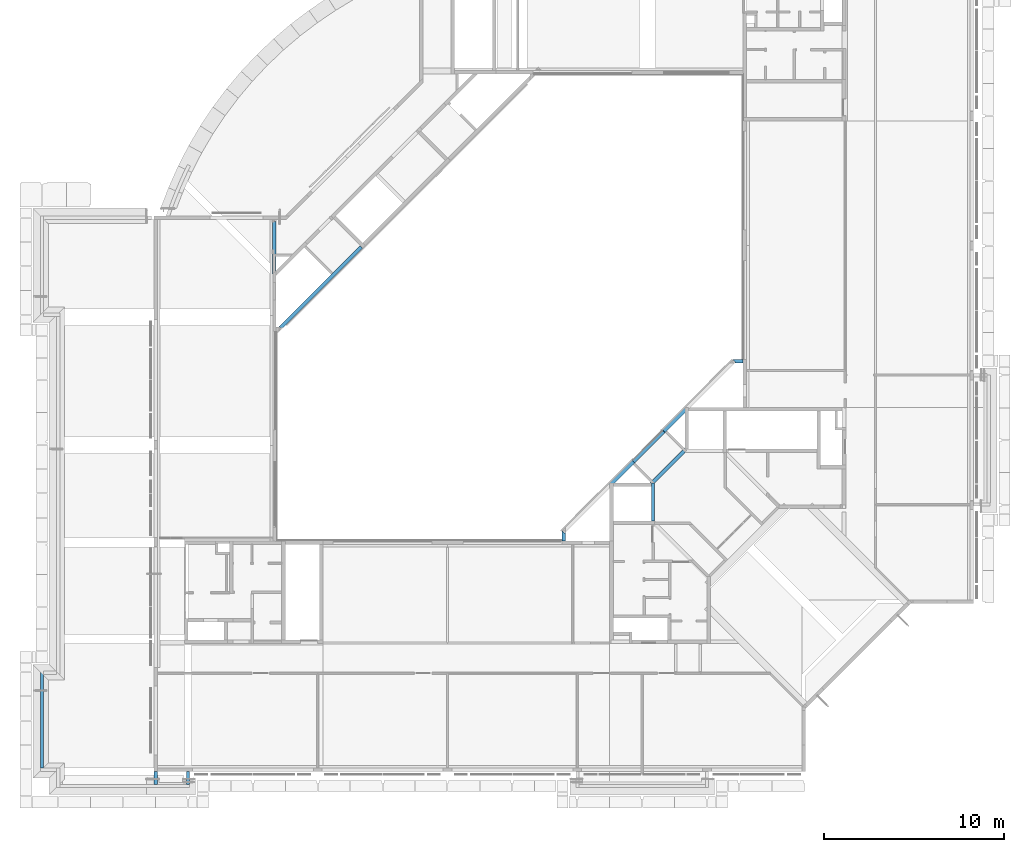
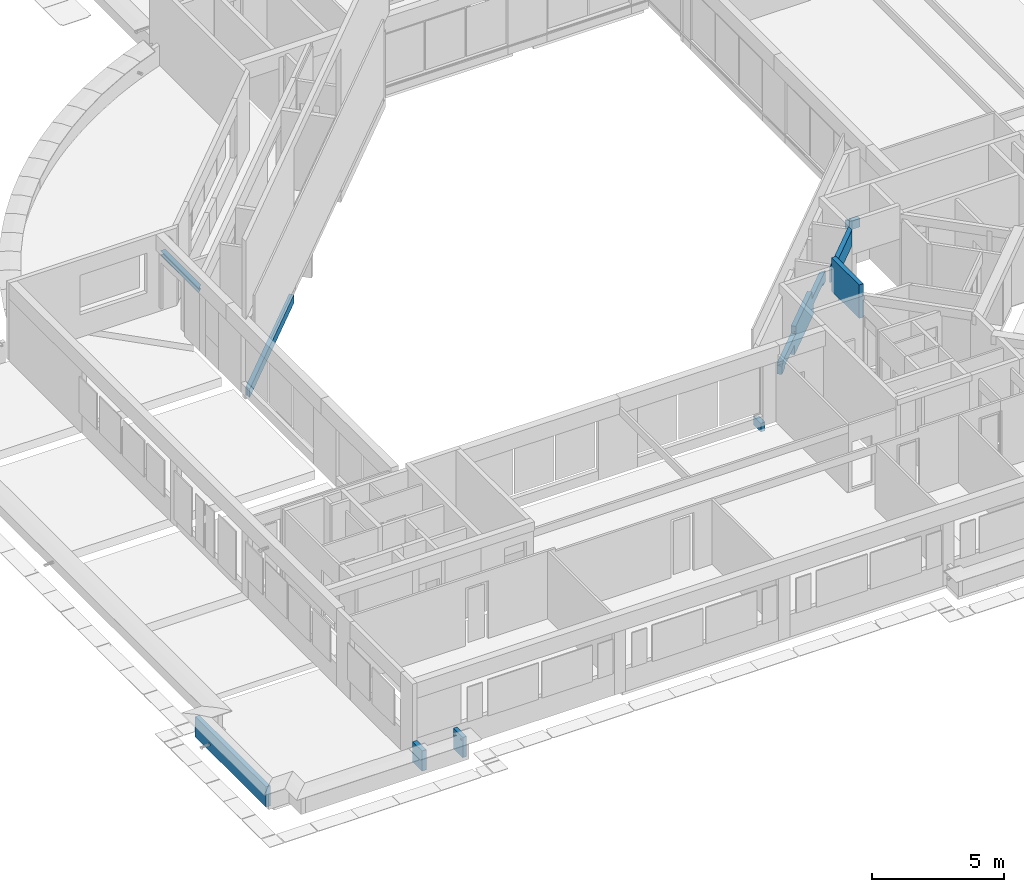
# One storey, part 19 of 38: 7 beams, 3 walls.
"""IFC4X3_ADD2 building model written with IfcOpenShell, lengths in millimetres."""

import ifcopenshell
import ifcopenshell.guid

model = None  # the IFC model being written
_history = None  # IfcOwnerHistory: only IFC2X3 demands one
_inside = {}  # id of a spatial element -> (the spatial element, [elements in it])
_under = {}  # id of a project, library or spatial element -> (it, [spatial elements below it])
_declared = {}  # id of a project -> (the project, [libraries it declares])
_typed = {}  # id of a type object -> (the type object, [elements of that type])
_made_of = {}  # id of a material, layer set ... -> (it, [elements and type objects made of it])


def new_model(schema):
    """Start an empty IFC model of exactly this schema.

    Asked for "IFC4X3", IfcOpenShell would pick the latest addendum, in which some entities
    have other attributes; the version numbers below select the first issue.
    IFC2X3 requires an IfcOwnerHistory on every rooted entity: one is made here for all.
    """
    global model, _history
    if schema == "IFC4X3":
        model = ifcopenshell.file(schema_version=(4, 3, 0, 0))
    else:
        model = ifcopenshell.file(schema=schema)
    _inside.clear()
    _under.clear()
    _declared.clear()
    _typed.clear()
    _made_of.clear()
    _history = None
    if model.schema == "IFC2X3":
        org = make("IfcOrganization", Name="unknown")
        user = make(
            "IfcPersonAndOrganization",
            ThePerson=make("IfcPerson", FamilyName="unknown"),
            TheOrganization=org,
        )
        app = make(
            "IfcApplication",
            ApplicationDeveloper=org,
            Version="unknown",
            ApplicationFullName="unknown",
            ApplicationIdentifier="unknown",
        )
        _history = make(
            "IfcOwnerHistory",
            OwningUser=user,
            OwningApplication=app,
            ChangeAction="ADDED",
            CreationDate=0,
        )
    return model


def make(cls, **values):
    """One entity of the class cls with the attributes given. An attribute that is None is left unset."""
    return model.create_entity(
        cls, **{name: value for name, value in values.items() if value is not None}
    )


def rooted(cls, **values):
    """An entity with a GlobalId (a new one), such as an element, a storey or a relation."""
    return make(cls, GlobalId=ifcopenshell.guid.new(), OwnerHistory=_history, **values)


def si_unit(unit_type, name, prefix=None):
    """IfcSIUnit, for example si_unit("LENGTHUNIT", "METRE", prefix="MILLI")."""
    return make("IfcSIUnit", UnitType=unit_type, Prefix=prefix, Name=name)


def assignment(units):
    """IfcUnitAssignment: the units of a project."""
    return None if units is None else make("IfcUnitAssignment", Units=units)


def point(xyz):
    """IfcCartesianPoint."""
    return None if xyz is None else make("IfcCartesianPoint", Coordinates=xyz)


def direction(xyz):
    """IfcDirection."""
    return None if xyz is None else make("IfcDirection", DirectionRatios=xyz)


def frame(location, z_axis=None, x_axis=None):
    """IfcAxis2Placement3D, a coordinate frame: its origin and axes. An axis left out is left unset."""
    return make(
        "IfcAxis2Placement3D",
        Location=point(location),
        Axis=direction(z_axis),
        RefDirection=direction(x_axis),
    )


def origin_with_axes():
    """The frame at (0, 0, 0) with the z axis (0, 0, 1) and the x axis (1, 0, 0) written out."""
    return frame((0.0, 0.0, 0.0), z_axis=(0.0, 0.0, 1.0), x_axis=(1.0, 0.0, 0.0))


def place(relative_to, where):
    """IfcLocalPlacement: puts the frame where relative to a parent placement (None: the world)."""
    return make(
        "IfcLocalPlacement", PlacementRelTo=relative_to, RelativePlacement=where
    )


def context(
    kind, dimensions, precision=None, world=None, true_north=None, identifier=None
):
    """IfcGeometricRepresentationContext, for example the 3D "Model" context."""
    return make(
        "IfcGeometricRepresentationContext",
        ContextIdentifier=identifier,
        ContextType=kind,
        CoordinateSpaceDimension=dimensions,
        Precision=precision,
        WorldCoordinateSystem=world,
        TrueNorth=true_north,
    )


def subcontext(parent, identifier, kind, view, scale=None):
    """IfcGeometricRepresentationSubContext, for example "Body" below "Model"."""
    return make(
        "IfcGeometricRepresentationSubContext",
        ContextIdentifier=identifier,
        ContextType=kind,
        ParentContext=parent,
        TargetScale=scale,
        TargetView=view,
    )


def project(units=None, contexts=None):
    """IfcProject with its units and contexts."""
    return rooted(
        "IfcProject",
        Name="project",
        RepresentationContexts=contexts,
        UnitsInContext=assignment(units),
    )


def spatial(cls, under=None, at=None, **own):
    """A site, building, storey or space (cls), placed at a placement, below another one or the project."""
    s = rooted(cls, ObjectPlacement=at, **own)
    if under is not None:
        _under.setdefault(under.id(), (under, []))[1].append(s)
    return s


def point_list(points):
    """IfcCartesianPointList2D or 3D."""
    cls = (
        "IfcCartesianPointList2D" if len(points[0]) == 2 else "IfcCartesianPointList3D"
    )
    return make(cls, CoordList=points)


def polygons(points, faces, closed=None, point_numbers=None):
    """IfcPolygonalFaceSet: a face is its outer loop, then its inner loops; points numbered from 1."""
    made = []
    for loops in faces:
        if len(loops) == 1:
            made.append(make("IfcIndexedPolygonalFace", CoordIndex=loops[0]))
        else:
            made.append(
                make(
                    "IfcIndexedPolygonalFaceWithVoids",
                    CoordIndex=loops[0],
                    InnerCoordIndices=loops[1:],
                )
            )
    return make(
        "IfcPolygonalFaceSet",
        Coordinates=point_list(points),
        Closed=closed,
        Faces=made,
        PnIndex=point_numbers,
    )


def shape(context_of_items, identifier, shape_type, items):
    """IfcShapeRepresentation: the items that make up one representation, for example the "Body"."""
    return make(
        "IfcShapeRepresentation",
        ContextOfItems=context_of_items,
        RepresentationIdentifier=identifier,
        RepresentationType=shape_type,
        Items=items,
    )


def source(mapping_origin, context_of_items, identifier, shape_type, items):
    """IfcRepresentationMap: a shape defined once, which mapped items show again and again."""
    return make(
        "IfcRepresentationMap",
        MappingOrigin=mapping_origin,
        MappedRepresentation=shape(context_of_items, identifier, shape_type, items),
    )


def transform(
    local_origin,
    x_axis=None,
    y_axis=None,
    z_axis=None,
    scale=None,
    scale2=None,
    scale3=None,
    uniform=True,
):
    """IfcCartesianTransformationOperator3D, or its non-uniform kind. x_axis, y_axis, z_axis: its Axis1, 2, 3."""
    if uniform:
        return make(
            "IfcCartesianTransformationOperator3D",
            Axis1=direction(x_axis),
            Axis2=direction(y_axis),
            LocalOrigin=point(local_origin),
            Scale=scale,
            Axis3=direction(z_axis),
        )
    return make(
        "IfcCartesianTransformationOperator3DnonUniform",
        Axis1=direction(x_axis),
        Axis2=direction(y_axis),
        LocalOrigin=point(local_origin),
        Scale=scale,
        Axis3=direction(z_axis),
        Scale2=scale2,
        Scale3=scale3,
    )


def mapped(mapping_source, mapping_target):
    """IfcMappedItem: shows the shape of a source again, moved by a transform."""
    return make(
        "IfcMappedItem", MappingSource=mapping_source, MappingTarget=mapping_target
    )


def material(Name=None, Category=None):
    """IfcMaterial."""
    return make("IfcMaterial", Name=Name, Category=Category)


def made_of(thing, what):
    """Note that an element or type object is made of a material, layer set ...; save() writes the relation."""
    if what is not None:
        _made_of.setdefault(what.id(), (what, []))[1].append(thing)
    return thing


def type_object(cls, material=None, **own):
    """A type object (cls), such as IfcWallType, which elements share."""
    return made_of(rooted(cls, **own), material)


def type_shapes(of_type, sources):
    """Give a type object the sources (RepresentationMaps) that its elements show as mapped items."""
    of_type.RepresentationMaps = sources


def element(
    cls,
    number,
    at=None,
    inside=None,
    cuts=None,
    type_object=None,
    material=None,
    context=None,
    identifier="Body",
    shape_type=None,
    held_by="IfcProductDefinitionShape",
    body=None,
    shapes=None,
    **own,
):
    """One element of the class cls, such as IfcWall. Its Tag is "e" and its number.

    at: its placement. inside: the storey or other place that contains it. cuts: it is an
    opening in that element (IfcRelVoidsElement). A single representation is given by context,
    identifier, shape_type and body (its items); several are given by shapes. held_by: the class
    of the entity that holds the representations. save() writes the other relations.
    """
    e = rooted(cls, Tag="e%d" % number, ObjectPlacement=at, **own)
    if body is not None:
        shapes = [shape(context, identifier, shape_type, body)]
    if shapes is not None:
        e.Representation = make(held_by, Representations=shapes)
    if inside is not None:
        _inside.setdefault(inside.id(), (inside, []))[1].append(e)
    if cuts is not None:
        rooted(
            "IfcRelVoidsElement", RelatingBuildingElement=cuts, RelatedOpeningElement=e
        )
    if type_object is not None:
        _typed.setdefault(type_object.id(), (type_object, []))[1].append(e)
    return made_of(e, material)


def aggregate(whole, parts):
    """IfcRelAggregates: a whole, such as a stair, and the parts it consists of."""
    return rooted("IfcRelAggregates", RelatingObject=whole, RelatedObjects=parts)


def save(model, path):
    """Write the relations noted so far, then the file.

    IfcRelAggregates (storeys below a building ...), IfcRelContainedInSpatialStructure (elements
    in a storey), IfcRelDefinesByType, IfcRelAssociatesMaterial and IfcRelDeclares: one each for
    every whole, place, type object, material and project.
    """
    for whole, parts in _under.values():
        aggregate(whole, parts)
    for where, things in _inside.values():
        rooted(
            "IfcRelContainedInSpatialStructure",
            RelatedElements=things,
            RelatingStructure=where,
        )
    for kind, things in _typed.values():
        rooted("IfcRelDefinesByType", RelatedObjects=things, RelatingType=kind)
    for what, things in _made_of.values():
        rooted("IfcRelAssociatesMaterial", RelatedObjects=things, RelatingMaterial=what)
    for by, libraries in _declared.values():
        rooted("IfcRelDeclares", RelatingContext=by, RelatedDefinitions=libraries)
    model.write(path)


model = new_model("IFC4X3_ADD2")

# Units and contexts
model_context = context("Model", 3, precision=1e-05, world=origin_with_axes(), true_north=direction((0.0, 1.0)))
body_context = subcontext(model_context, "Body", "Model", "MODEL_VIEW")
ifc_project = project(units=[si_unit("LENGTHUNIT", "METRE", prefix="MILLI"), si_unit("AREAUNIT", "SQUARE_METRE"), si_unit("VOLUMEUNIT", "CUBIC_METRE"), si_unit("PLANEANGLEUNIT", "RADIAN"), si_unit("TIMEUNIT", "SECOND"), si_unit("MASSUNIT", "GRAM")], contexts=[model_context])

# Site, building, storey
site_placement = place(None, origin_with_axes())
site = spatial("IfcSite", under=ifc_project, at=site_placement, Name="Site", CompositionType="ELEMENT")
building_placement = place(site_placement, origin_with_axes())
building = spatial("IfcBuilding", under=site, at=building_placement, Name="IFC Building Story")
storey_placement = place(building_placement, frame((0.0, 0.0, 10800.0), z_axis=(0.0, 0.0, 1.0), x_axis=(1.0, 0.0, 0.0)))
storey = spatial("IfcBuildingStorey", under=building, at=storey_placement, Name="030", Elevation=10800.0)

# Beams
ifc_material_1 = material(Name="BB_Beton_Bestaand")
beam_type_1 = type_object("IfcBeamType", Name="BB_XX_Betonbalk_ rechthoekig_ center-center_SFB_190 x 740 mm", PredefinedType="NOTDEFINED")
shared_shape_1 = source(origin_with_axes(), body_context, "Body", "Tessellation", [
    polygons([(1953.70057685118, 1685.00000000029, 0.0), (1953.70057685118, 1685.00000000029, 740.000000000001), (268.700576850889, 2.16573425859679e-12, 740.000000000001), (268.700576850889, 2.16573425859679e-12, 0.0), (1953.70057685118, 1953.70057685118, 0.0), (256.990491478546, 2.16573425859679e-12, 0.0), (59.0005927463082, 4.33146851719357e-12, 0.0), (-2.16573425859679e-12, 2.16573425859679e-12, 0.0), (29.5002963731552, 29.5002963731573, 0.0), (128.495245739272, 128.495245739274, 0.0), (1825.17595242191, 1825.17595242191, 0.0), (1924.17090178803, 1924.17090178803, 0.0), (1953.70057685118, 1953.70057685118, 740.000000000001), (-2.16573425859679e-12, 2.16573425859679e-12, 740.000000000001), (29.500296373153, 29.5002963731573, 740.000000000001), (128.495245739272, 128.495245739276, 740.000000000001), (1825.17595242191, 1825.17595242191, 740.000000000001), (1924.17090178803, 1924.17090178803, 740.000000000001), (1953.70057685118, 1875.00000000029, 740.000000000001), (78.7005768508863, 4.33146851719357e-12, 740.000000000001)], [[[1, 2, 3, 4]], [[7, 8, 9]], [[9, 10, 6]], [[9, 6, 7]], [[12, 5, 1]], [[1, 11, 12]], [[1, 4, 6]], [[1, 6, 10]], [[1, 10, 11]], [[9, 8, 14]], [[9, 14, 15]], [[15, 16, 10]], [[15, 10, 9]], [[16, 17, 11]], [[16, 11, 10]], [[17, 18, 12]], [[17, 12, 11]], [[18, 13, 5]], [[18, 5, 12]], [[19, 13, 18]], [[15, 14, 20]], [[20, 16, 15]], [[20, 3, 2]], [[20, 2, 19]], [[20, 19, 17]], [[20, 17, 16]], [[19, 18, 17]], [[19, 2, 1]], [[19, 1, 5]], [[5, 13, 19]], [[20, 14, 8]], [[20, 8, 7]], [[6, 4, 3]], [[3, 20, 7]], [[3, 7, 6]]]),
])
type_shapes(beam_type_1, [shared_shape_1])
beam_1_placement = place(storey_placement, frame((-17868.7005768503, 15915.0, 2660.0), z_axis=(0.0, 0.0, 1.0), x_axis=(1.0, 0.0, 0.0)))
element("IfcBeam", 1, at=beam_1_placement, inside=storey, type_object=beam_type_1, material=ifc_material_1, Name="BB_XX_Betonbalk, rechthoekig, center-center_SFB:190 x 740 mm", ObjectType="BB_XX_Betonbalk, rechthoekig, center-center_SFB:190 x 740 mm", PredefinedType="BEAM", context=body_context, shape_type="MappedRepresentation", body=[
    mapped(shared_shape_1, transform((0.0, 0.0, 0.0))),
])
beam_type_2 = type_object("IfcBeamType", Name="BB_XX_Betonbalk_ rechthoekig_ center-center_SFB_190 x 1550 mm3", PredefinedType="NOTDEFINED")
shared_shape_2 = source(origin_with_axes(), body_context, "Body", "Tessellation", [
    polygons([(1.40772726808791e-10, 2.16573425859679e-12, 1550.0), (1.40772726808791e-10, 2.16573425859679e-12, 0.0), (190.000000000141, 1.51601398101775e-11, 0.0), (190.000000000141, 1.51601398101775e-11, 1550.0), (0.0, 2100.0, 1550.0), (190.000000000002, 2100.00000000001, 1550.0), (190.000000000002, 2100.00000000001, 0.0), (0.0, 2100.0, 0.0), (0.0, 2100.0, 429.999999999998), (183.315657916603, 2100.00000000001, 429.999999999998), (183.315657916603, 2100.00000000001, 1150.0), (0.0, 2100.0, 1150.0), (0.0, 2085.74301998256, 1150.0), (0.0, 2085.74301998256, 429.999999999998), (1.29944055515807e-11, 1900.00000000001, 0.0), (190.000000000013, 1900.00000000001, 0.0), (84.5702091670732, 2001.21051160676, 1150.0), (84.5702091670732, 2001.21051160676, 429.999999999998)], [[[1, 2, 3, 4]], [[11, 12, 5]], [[11, 5, 6]], [[6, 10, 11]], [[6, 7, 10]], [[7, 8, 9]], [[7, 9, 10]], [[14, 9, 8]], [[15, 2, 1]], [[15, 1, 13]], [[14, 8, 15]], [[15, 13, 14]], [[1, 5, 13]], [[5, 12, 13]], [[15, 8, 7]], [[15, 7, 16]], [[16, 3, 2]], [[16, 2, 15]], [[16, 7, 6]], [[6, 4, 3]], [[6, 3, 16]], [[1, 4, 6, 5]], [[17, 18, 14, 13]], [[18, 17, 11, 10]], [[14, 18, 10, 9]], [[17, 13, 12, 11]]]),
])
type_shapes(beam_type_2, [shared_shape_2])
beam_2_placement = place(storey_placement, frame((-17790.0, 13815.0, 2250.0), z_axis=(0.0, 0.0, 1.0), x_axis=(1.0, 0.0, 0.0)))
element("IfcBeam", 2, at=beam_2_placement, inside=storey, type_object=beam_type_2, material=ifc_material_1, Name="BB_XX_Betonbalk, rechthoekig, center-center_SFB:190 x 1550 mm", ObjectType="BB_XX_Betonbalk, rechthoekig, center-center_SFB:190 x 1550 mm", PredefinedType="BEAM", context=body_context, shape_type="MappedRepresentation", body=[
    mapped(shared_shape_2, transform((0.0, 0.0, 0.0))),
])
ifc_material_2 = material(Name="Metal - Steel - 345 MPa")
beam_type_3 = type_object("IfcBeamType", Name="VHG_28_HEA Beams_HE200A", PredefinedType="NOTDEFINED")
shared_shape_3 = source(origin_with_axes(), body_context, "Body", "Tessellation", [
    polygons([(200.000000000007, 2912.94985260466, 10.0000000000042), (200.000000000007, 2912.94985260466, 2.16573425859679e-12), (4.33146851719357e-12, 2912.94985260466, 2.16573425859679e-12), (4.33146851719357e-12, 2912.94985260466, 10.0000000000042), (96.7500000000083, 2912.94985260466, 10.0000000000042), (96.7500000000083, 2912.94985260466, 180.000000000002), (4.33146851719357e-12, 2912.94985260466, 180.000000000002), (4.33146851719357e-12, 2912.94985260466, 190.0), (200.000000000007, 2912.94985260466, 190.0), (200.000000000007, 2912.94985260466, 180.000000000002), (103.250000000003, 2912.94985260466, 180.000000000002), (103.250000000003, 2912.94985260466, 10.0000000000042), (200.000000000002, 200.000000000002, 10.0000000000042), (200.000000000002, 200.000000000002, 2.16573425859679e-12), (0.0, 0.0, 2.16573425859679e-12), (0.0, 0.0, 10.0000000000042), (96.750000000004, 96.750000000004, 10.0000000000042), (96.750000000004, 96.750000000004, 180.000000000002), (96.750000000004, 185.740423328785, 28.1570799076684), (96.750000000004, 265.740423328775, 28.1570799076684), (96.750000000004, 265.740423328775, 168.157079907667), (96.750000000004, 185.740423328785, 168.157079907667), (0.0, 0.0, 180.000000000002), (0.0, 0.0, 190.0), (200.000000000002, 200.000000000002, 190.0), (200.000000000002, 200.000000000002, 180.000000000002), (103.250000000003, 103.250000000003, 180.000000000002), (103.250000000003, 103.250000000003, 10.0000000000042), (103.250000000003, 265.740423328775, 28.1570799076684), (103.250000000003, 185.740423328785, 28.1570799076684), (103.250000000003, 185.740423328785, 168.157079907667), (103.250000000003, 265.740423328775, 168.157079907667)], [[[6, 7, 8]], [[12, 1, 2]], [[2, 5, 12]], [[6, 8, 11]], [[11, 12, 5]], [[11, 5, 6]], [[8, 9, 11]], [[9, 10, 11]], [[2, 3, 5]], [[3, 4, 5]], [[2, 1, 13, 14]], [[3, 2, 14, 15]], [[4, 3, 15, 16]], [[5, 4, 16, 17]], [[22, 19, 17]], [[22, 17, 18]], [[18, 21, 22]], [[21, 18, 6]], [[6, 5, 20]], [[6, 20, 21]], [[5, 17, 20]], [[17, 19, 20]], [[7, 6, 18, 23]], [[8, 7, 23, 24]], [[9, 8, 24, 25]], [[10, 9, 25, 26]], [[11, 10, 26, 27]], [[29, 28, 12]], [[12, 11, 32]], [[12, 32, 29]], [[11, 27, 32]], [[27, 31, 32]], [[27, 28, 30]], [[27, 30, 31]], [[28, 29, 30]], [[1, 12, 28, 13]], [[29, 20, 19, 30]], [[30, 19, 22, 31]], [[31, 22, 21, 32]], [[20, 29, 32, 21]], [[27, 26, 25]], [[17, 16, 15]], [[15, 28, 17]], [[27, 25, 18]], [[18, 17, 28]], [[18, 28, 27]], [[25, 24, 18]], [[24, 23, 18]], [[15, 14, 28]], [[14, 13, 28]]]),
])
type_shapes(beam_type_3, [shared_shape_3])
beam_3_placement = place(storey_placement, frame((-38805.0, 27512.0501473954, 2490.0), z_axis=(0.0, 0.0, 1.0), x_axis=(1.0, 0.0, 0.0)))
element("IfcBeam", 3, at=beam_3_placement, inside=storey, type_object=beam_type_3, material=ifc_material_2, Name="VHG_28_HEA Beams:HE200A", ObjectType="VHG_28_HEA Beams:HE200A", PredefinedType="BEAM", context=body_context, shape_type="MappedRepresentation", body=[
    mapped(shared_shape_3, transform((0.0, 0.0, 0.0))),
])
beam_type_4 = type_object("IfcBeamType", Name="BB_XX_Betonbalk_ rechthoekig_ center-center_SFB_190 x 400 mm29", PredefinedType="NOTDEFINED")
shared_shape_4 = source(origin_with_axes(), body_context, "Body", "Tessellation", [
    polygons([(4657.8504130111, 4588.90460665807, 400.000000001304), (4657.85041301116, 4588.90460665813, 1.30377202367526e-09), (4523.50012458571, 4723.25489508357, 1.30377202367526e-09), (4523.50012458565, 4723.25489508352, 400.000000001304), (68.9458063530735, 5.63090907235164e-11, 2.16573425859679e-12), (68.9458063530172, 0.0, 400.000000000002), (68.1480087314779, 0.797797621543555, 400.000000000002), (68.1480087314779, 0.797797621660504, 2.16573425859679e-12), (68.1480087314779, 199.754770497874, 2.38230768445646e-11), (0.0, 199.754770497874, 1.94916083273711e-11), (0.0, 199.754770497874, 400.000000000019), (68.1480087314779, 199.754770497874, 400.000000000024)], [[[1, 2, 3, 4]], [[5, 6, 7, 8]], [[2, 1, 6, 5]], [[9, 10, 3]], [[3, 2, 5]], [[3, 5, 8]], [[3, 8, 9]], [[4, 3, 10, 11]], [[12, 7, 6]], [[12, 6, 1]], [[12, 1, 4]], [[4, 11, 12]], [[12, 9, 8, 7]], [[9, 12, 11, 10]]]),
])
type_shapes(beam_type_4, [shared_shape_4])
beam_4_placement = place(storey_placement, frame((-38473.965971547, 24355.2452295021, -600.0), z_axis=(0.0, 0.0, 1.0), x_axis=(1.0, 0.0, 0.0)))
element("IfcBeam", 4, at=beam_4_placement, inside=storey, type_object=beam_type_4, material=ifc_material_1, Name="BB_XX_Betonbalk, rechthoekig, center-center_SFB:190 x 400 mm", ObjectType="BB_XX_Betonbalk, rechthoekig, center-center_SFB:190 x 400 mm", PredefinedType="BEAM", context=body_context, shape_type="MappedRepresentation", body=[
    mapped(shared_shape_4, transform((0.0, 0.0, 0.0))),
])
beam_type_5 = type_object("IfcBeamType", Name="BB_XX_Betonbalk_ rechthoekig_ center-center_SFB_190 x 400 mm31", PredefinedType="NOTDEFINED")
shared_shape_5 = source(origin_with_axes(), body_context, "Body", "Tessellation", [
    polygons([(0.0, 563.002229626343, 0.0), (0.0, 563.002229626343, 400.0), (2.77540874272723, 563.002229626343, 400.0), (2.77540874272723, 563.002229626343, 0.0), (190.0, -2.16573425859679e-12, 400.0), (0.0, -2.16573425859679e-12, 400.0), (0.0, -2.16573425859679e-12, 0.0), (190.0, -2.16573425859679e-12, 0.0), (190.0, 485.715395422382, 0.0), (190.0, 485.715395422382, 400.0), (135.03112147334, 430.746516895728, 0.0), (135.03112147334, 430.746516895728, 400.0)], [[[1, 2, 3, 4]], [[5, 6, 7, 8]], [[5, 8, 9, 10]], [[11, 9, 8]], [[8, 7, 1]], [[8, 1, 4]], [[8, 4, 11]], [[2, 1, 7, 6]], [[12, 3, 2]], [[12, 2, 6]], [[12, 6, 5]], [[5, 10, 12]], [[12, 11, 4, 3]], [[11, 12, 10, 9]]]),
])
type_shapes(beam_type_5, [shared_shape_5])
beam_5_placement = place(storey_placement, frame((-22744.8526351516, 12695.004065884, -600.0), z_axis=(0.0, 0.0, 1.0), x_axis=(1.0, 0.0, 0.0)))
element("IfcBeam", 5, at=beam_5_placement, inside=storey, type_object=beam_type_5, material=ifc_material_1, Name="BB_XX_Betonbalk, rechthoekig, center-center_SFB:190 x 400 mm", ObjectType="BB_XX_Betonbalk, rechthoekig, center-center_SFB:190 x 400 mm", PredefinedType="BEAM", context=body_context, shape_type="MappedRepresentation", body=[
    mapped(shared_shape_5, transform((0.0, 0.0, 0.0))),
])
beam_type_6 = type_object("IfcBeamType", Name="BB_XX_Betonbalk_ rechthoekig_ center-center_SFB_190 x 400 mm35", PredefinedType="NOTDEFINED")
shared_shape_6 = source(origin_with_axes(), body_context, "Body", "Tessellation", [
    polygons([(8.66293703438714e-12, 190.0, 400.0), (8.66293703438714e-12, 190.0, 0.0), (6.49720277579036e-12, 188.415566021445, 0.0), (8.66293703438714e-12, 188.415566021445, 400.0), (552.100440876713, 190.0, 400.0), (552.100440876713, 0.0, 400.0), (552.100440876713, 0.0, 0.0), (552.100440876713, 190.0, 0.0), (76.5283444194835, 0.0, 0.0), (132.471955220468, 55.9436108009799, 0.0), (76.5283444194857, 0.0, 400.0), (132.471955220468, 55.9436108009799, 400.0)], [[[1, 2, 3, 4]], [[5, 6, 7, 8]], [[2, 1, 5, 8]], [[10, 3, 2]], [[10, 2, 8]], [[10, 8, 7]], [[7, 9, 10]], [[7, 6, 11, 9]], [[12, 11, 6]], [[6, 5, 1]], [[6, 1, 4]], [[6, 4, 12]], [[12, 10, 9, 11]], [[10, 12, 4, 3]]]),
])
type_shapes(beam_type_6, [shared_shape_6])
beam_6_placement = place(storey_placement, frame((-13247.100440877, 22565.0, -600.0), z_axis=(0.0, 0.0, 1.0), x_axis=(1.0, 0.0, 0.0)))
element("IfcBeam", 6, at=beam_6_placement, inside=storey, type_object=beam_type_6, material=ifc_material_1, Name="BB_XX_Betonbalk, rechthoekig, center-center_SFB:190 x 400 mm", ObjectType="BB_XX_Betonbalk, rechthoekig, center-center_SFB:190 x 400 mm", PredefinedType="BEAM", context=body_context, shape_type="MappedRepresentation", body=[
    mapped(shared_shape_6, transform((0.0, 0.0, 0.0))),
])
beam_type_7 = type_object("IfcBeamType", Name="BB_XX_Betonbalk_ rechthoekig_ center-center_SFB_190 x 1200 mm", PredefinedType="NOTDEFINED")
shared_shape_7 = source(origin_with_axes(), body_context, "Body", "Tessellation", [
    polygons([(0.0, 134.35028842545, 349.999999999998), (134.350288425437, 4.33146851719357e-12, 349.999999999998), (134.350288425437, 4.33146851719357e-12, 749.999999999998), (2.17208681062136, 132.178201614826, 749.999999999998), (2.17208681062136, 132.178201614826, 869.999999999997), (0.0, 134.35028842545, 869.999999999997), (4648.19979690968, 4513.84950848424, 350.000000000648), (4513.84950848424, 4648.19979690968, 350.000000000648), (4513.84950848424, 4648.19979690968, 749.999999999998), (4644.87110377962, 4517.1782016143, 749.999999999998), (4644.87110377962, 4517.1782016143, 869.999999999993), (4648.19979690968, 4513.84950848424, 869.999999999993), (1447.40364096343, 1581.75392938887, 0.0), (1325.64872472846, 1459.99901315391, 0.0), (1325.64872472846, 1459.99901315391, 469.999999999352), (197.827913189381, 332.178201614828, 469.999999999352), (197.827913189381, 332.178201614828, 349.999999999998), (187.476250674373, 321.826539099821, 349.999999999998), (1442.10034010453, 1576.45062852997, 869.999999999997), (1442.10034010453, 1576.45062852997, 950.000000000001), (1447.40364096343, 1581.75392938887, 950.000000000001), (1447.40364096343, 1581.75392938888, 1200.0), (3122.87114421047, 3257.22143263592, 1200.0), (3122.87114421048, 3257.22143263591, 950.000000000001), (3128.17444506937, 3262.52473349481, 950.000000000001), (3128.17444506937, 3262.52473349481, 869.999999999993), (4382.82791318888, 4517.17820161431, 869.999999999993), (4382.82791318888, 4517.17820161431, 749.999999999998), (4382.82791318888, 4517.17820161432, 350.000000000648), (4372.4762506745, 4506.82653909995, 350.000000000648), (4182.82791318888, 4317.17820161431, 350.000000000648), (4182.82791318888, 4317.17820161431, 470.000000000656), (3303.03760817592, 3437.38789660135, 470.000000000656), (3303.03760817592, 3437.38789660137, 0.0), (3133.47774592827, 3267.82803435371, 0.0), (1459.9990131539, 1325.64872472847, 0.0), (3437.38789660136, 3303.03760817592, 0.0), (3267.82803435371, 3133.47774592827, 0.0), (1581.75392938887, 1447.40364096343, 0.0), (187.476250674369, 53.1259622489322, 349.999999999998), (466.528490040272, 332.178201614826, 349.999999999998), (466.528490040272, 332.178201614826, 469.999999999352), (1459.99901315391, 1325.64872472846, 469.999999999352), (3437.38789660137, 3303.03760817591, 470.000000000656), (4372.4762506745, 4238.12596224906, 470.000000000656), (4451.52849003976, 4317.1782016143, 470.000000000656), (4451.52849003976, 4317.1782016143, 350.000000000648), (3262.52473349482, 3128.17444506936, 869.999999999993), (3262.52473349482, 3128.17444506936, 950.000000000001), (3257.22143263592, 3122.87114421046, 950.000000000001), (3257.22143263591, 3122.87114421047, 1200.0), (1581.75392938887, 1447.40364096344, 1200.0), (1581.75392938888, 1447.40364096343, 950.000000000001), (1576.45062852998, 1442.10034010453, 950.000000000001), (1576.45062852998, 1442.10034010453, 869.999999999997), (266.528490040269, 132.178201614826, 869.999999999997), (266.528490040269, 132.178201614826, 749.999999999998), (4372.47625067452, 4317.1782016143, 350.000000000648), (4372.47625067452, 4317.1782016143, 470.000000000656)], [[[4, 5, 6]], [[4, 6, 1]], [[1, 2, 3]], [[1, 3, 4]], [[10, 11, 12]], [[10, 12, 7]], [[7, 8, 9]], [[7, 9, 10]], [[18, 1, 16]], [[16, 17, 18]], [[16, 1, 6]], [[6, 19, 15]], [[6, 15, 16]], [[19, 20, 21]], [[19, 21, 13]], [[13, 15, 19]], [[13, 14, 15]], [[21, 22, 23]], [[21, 23, 24]], [[30, 31, 32]], [[32, 28, 29]], [[32, 29, 30]], [[28, 9, 8]], [[28, 8, 29]], [[33, 34, 35]], [[33, 35, 26]], [[26, 27, 28]], [[26, 28, 32]], [[26, 32, 33]], [[35, 24, 26]], [[24, 25, 26]], [[35, 13, 21]], [[35, 21, 24]], [[35, 34, 37]], [[35, 37, 38]], [[38, 39, 13]], [[38, 13, 35]], [[39, 36, 14]], [[39, 14, 13]], [[46, 47, 7]], [[46, 7, 12]], [[12, 45, 46]], [[12, 48, 44]], [[12, 44, 45]], [[48, 38, 37]], [[48, 37, 44]], [[50, 51, 43]], [[43, 48, 50]], [[48, 49, 50]], [[43, 39, 38]], [[43, 38, 48]], [[43, 36, 39]], [[53, 54, 55]], [[57, 3, 42]], [[42, 43, 55]], [[42, 55, 56]], [[42, 56, 57]], [[55, 43, 51]], [[51, 53, 55]], [[51, 52, 53]], [[3, 40, 42]], [[40, 41, 42]], [[3, 2, 40]], [[23, 22, 52, 51]], [[40, 2, 1]], [[18, 17, 41]], [[18, 41, 40]], [[40, 1, 18]], [[43, 15, 14, 36]], [[15, 43, 42, 16]], [[58, 31, 30]], [[29, 8, 7]], [[29, 7, 47]], [[47, 58, 30]], [[47, 30, 29]], [[59, 46, 45]], [[45, 44, 33]], [[45, 33, 32]], [[45, 32, 59]], [[33, 44, 37, 34]], [[41, 17, 16, 42]], [[58, 47, 46]], [[58, 46, 59]], [[59, 32, 31]], [[59, 31, 58]], [[55, 19, 6]], [[55, 6, 5]], [[55, 5, 56]], [[26, 48, 12]], [[26, 12, 11]], [[26, 11, 27]], [[48, 26, 25, 49]], [[49, 25, 24, 50]], [[50, 24, 23, 51]], [[19, 55, 54, 20]], [[20, 54, 53, 21]], [[21, 53, 52, 22]], [[28, 10, 9]], [[27, 11, 10, 28]], [[57, 4, 3]], [[56, 5, 4, 57]]]),
])
type_shapes(beam_type_7, [shared_shape_7])
beam_7_placement = place(storey_placement, frame((-20287.4762506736, 15582.821798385, -950.0), z_axis=(0.0, 0.0, 1.0), x_axis=(1.0, 0.0, 0.0)))
element("IfcBeam", 7, at=beam_7_placement, inside=storey, type_object=beam_type_7, material=ifc_material_1, Name="BB_XX_Betonbalk, rechthoekig, center-center_SFB:190 x 1200 mm", ObjectType="BB_XX_Betonbalk, rechthoekig, center-center_SFB:190 x 1200 mm", PredefinedType="BEAM", context=body_context, shape_type="MappedRepresentation", body=[
    mapped(shared_shape_7, transform((0.0, 0.0, 0.0))),
])

# Walls
wall_1_placement = place(storey_placement, frame((0.0, 0.0, -10800.0), z_axis=(0.0, 0.0, 1.0), x_axis=(1.0, 0.0, 0.0)))
element("IfcWall", 8, at=wall_1_placement, inside=storey, Name="Basic Wall:BB_XX_Wand uit beton, 190 mm", ObjectType="Basic Wall:BB_XX_Wand uit beton, 190 mm", PredefinedType="SOLIDWALL", context=body_context, shape_type="Tessellation", body=[
    polygons([(-51504.99999999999, 95.0, 10600.0), (-51504.99999999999, 5475.0, 10600.0), (-51504.99999999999, 5475.0, 11540.0), (-51504.99999999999, 95.0, 11540.0), (-51504.99999999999, 4340.73304419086, 10904.25177041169), (-51504.99999999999, 4340.73304419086, 10917.52230982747), (-51504.99999999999, 4343.90613891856, 10930.40723148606), (-51504.99999999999, 4350.06791964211, 10942.15771057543), (-51504.99999999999, 4358.86028606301, 10952.09085196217), (-51504.99999999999, 4369.77225780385, 10959.62937757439), (-51504.99999999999, 4382.16967073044, 10964.33517570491), (-51504.99999999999, 4395.33203226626, 10965.93476247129), (-51504.99999999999, 4408.49439380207, 10964.33517570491), (-51504.99999999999, 4420.89180672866, 10959.62937757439), (-51504.99999999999, 4431.8037784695, 10952.09085196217), (-51504.99999999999, 4440.59614489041, 10942.15771057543), (-51504.99999999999, 4446.75792561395, 10930.40723148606), (-51504.99999999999, 4449.93102034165, 10917.52230982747), (-51504.99999999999, 4449.93102034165, 10904.25177041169), (-51504.99999999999, 4446.75792561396, 10891.3668487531), (-51504.99999999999, 4440.59614489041, 10879.61636966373), (-51504.99999999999, 4431.8037784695, 10869.68322827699), (-51504.99999999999, 4420.89180672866, 10862.14470266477), (-51504.99999999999, 4408.49439380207, 10857.43890453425), (-51504.99999999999, 4395.33203226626, 10855.83931776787), (-51504.99999999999, 4382.16967073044, 10857.43890453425), (-51504.99999999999, 4369.77225780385, 10862.14470266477), (-51504.99999999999, 4358.86028606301, 10869.68322827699), (-51504.99999999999, 4350.06791964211, 10879.61636966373), (-51504.99999999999, 4343.90613891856, 10891.3668487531), (-51694.99999999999, 5475.0, 10600.0), (-51694.99999999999, 94.99999999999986, 10600.0), (-51694.99999999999, 94.99999999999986, 11540.0), (-51694.99999999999, 5475.0, 11540.0), (-51694.99999999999, 4446.75792561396, 10883.45018208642), (-51694.99999999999, 4449.93102034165, 10896.335103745), (-51694.99999999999, 4449.93102034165, 10909.60564316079), (-51694.99999999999, 4446.75792561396, 10922.49056481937), (-51694.99999999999, 4440.59614489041, 10934.24104390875), (-51694.99999999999, 4431.8037784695, 10944.17418529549), (-51694.99999999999, 4420.89180672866, 10951.7127109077), (-51694.99999999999, 4408.49439380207, 10956.41850903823), (-51694.99999999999, 4395.33203226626, 10958.01809580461), (-51694.99999999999, 4382.16967073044, 10956.41850903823), (-51694.99999999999, 4369.77225780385, 10951.7127109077), (-51694.99999999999, 4358.86028606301, 10944.17418529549), (-51694.99999999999, 4350.06791964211, 10934.24104390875), (-51694.99999999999, 4343.90613891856, 10922.49056481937), (-51694.99999999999, 4340.73304419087, 10909.60564316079), (-51694.99999999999, 4340.73304419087, 10896.335103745), (-51694.99999999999, 4343.90613891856, 10883.45018208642), (-51694.99999999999, 4350.06791964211, 10871.69970299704), (-51694.99999999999, 4358.86028606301, 10861.7665616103), (-51694.99999999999, 4369.77225780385, 10854.22803599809), (-51694.99999999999, 4382.16967073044, 10849.52223786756), (-51694.99999999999, 4395.33203226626, 10847.92265110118), (-51694.99999999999, 4408.49439380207, 10849.52223786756), (-51694.99999999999, 4420.89180672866, 10854.22803599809), (-51694.99999999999, 4431.8037784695, 10861.7665616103), (-51694.99999999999, 4440.59614489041, 10871.69970299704)], [[[30, 5, 1]], [[1, 29, 30]], [[1, 28, 29]], [[1, 27, 28]], [[1, 26, 27]], [[1, 2, 26]], [[2, 25, 26]], [[2, 24, 25]], [[2, 23, 24]], [[2, 22, 23]], [[2, 21, 22]], [[2, 20, 21]], [[2, 19, 20]], [[2, 18, 19]], [[2, 17, 18]], [[2, 3, 16]], [[2, 16, 17]], [[3, 15, 16]], [[3, 14, 15]], [[3, 13, 14]], [[3, 12, 13]], [[3, 11, 12]], [[3, 10, 11]], [[10, 3, 4]], [[4, 9, 10]], [[4, 8, 9]], [[4, 7, 8]], [[4, 1, 6]], [[4, 6, 7]], [[1, 5, 6]], [[60, 35, 31]], [[31, 59, 60]], [[31, 58, 59]], [[31, 57, 58]], [[31, 56, 57]], [[31, 55, 56]], [[55, 31, 32]], [[32, 54, 55]], [[32, 53, 54]], [[32, 52, 53]], [[32, 51, 52]], [[32, 50, 51]], [[32, 49, 50]], [[32, 33, 48]], [[32, 48, 49]], [[33, 47, 48]], [[33, 46, 47]], [[33, 45, 46]], [[33, 34, 45]], [[34, 44, 45]], [[34, 43, 44]], [[34, 42, 43]], [[34, 41, 42]], [[34, 40, 41]], [[34, 39, 40]], [[34, 31, 38]], [[34, 38, 39]], [[31, 37, 38]], [[31, 36, 37]], [[31, 35, 36]], [[2, 1, 32, 31]], [[3, 2, 31, 34]], [[6, 5, 50, 49]], [[4, 3, 34, 33]], [[1, 4, 33, 32]], [[19, 18, 37, 36]], [[10, 45, 44, 11]], [[11, 44, 43, 12]], [[6, 49, 48, 7]], [[8, 47, 46, 9]], [[47, 8, 7, 48]], [[9, 46, 45, 10]], [[50, 5, 30, 51]], [[51, 30, 29, 52]], [[26, 55, 54, 27]], [[54, 53, 28, 27]], [[52, 29, 28, 53]], [[55, 26, 25, 56]], [[57, 56, 25, 24]], [[57, 24, 23, 58]], [[60, 59, 22, 21]], [[21, 20, 35, 60]], [[58, 23, 22, 59]], [[36, 35, 20, 19]], [[17, 16, 39, 38]], [[18, 17, 38, 37]], [[15, 14, 41, 40]], [[13, 12, 43, 42]], [[14, 13, 42, 41]], [[16, 15, 40, 39]]]),
])
wall_2_placement = place(storey_placement, frame((0.0, 0.0, -10800.0), z_axis=(0.0, 0.0, 1.0), x_axis=(1.0, 0.0, 0.0)))
element("IfcWall", 9, at=wall_2_placement, inside=storey, Name="Basic Wall:BB_XX_Wand uit beton, 170 mm", ObjectType="Basic Wall:BB_XX_Wand uit beton, 170 mm", PredefinedType="SOLIDWALL", context=body_context, shape_type="Tessellation", body=[
    polygons([(-43595.0, -94.99999999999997, 11542.69238031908), (-43595.0, -458.999999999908, 11542.69238031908), (-43425.0, -458.999999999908, 11542.69238031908), (-43425.0, -95.0, 11542.69238031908), (-43595.0, -530.999999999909, 11542.69238031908), (-43594.99999999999, -805.000000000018, 11542.69238031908), (-43425.0, -805.000000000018, 11542.69238031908), (-43425.0, -530.999999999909, 11542.69238031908), (-43425.0, -530.999999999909, 11537.99999999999), (-43425.0, -458.999999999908, 11537.99999999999), (-43595.0, -458.999999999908, 11537.99999999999), (-43595.0, -530.999999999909, 11537.99999999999), (-43595.0, -95.0, 10600.0), (-43594.99999999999, -805.000000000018, 10600.0), (-43594.99999999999, -623.574106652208, 11362.61684875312), (-43594.99999999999, -620.401011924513, 11375.5017704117), (-43594.99999999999, -620.401011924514, 11388.77230982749), (-43594.99999999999, -623.574106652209, 11401.65723148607), (-43594.99999999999, -629.735887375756, 11413.40771057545), (-43594.99999999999, -638.528253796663, 11423.34085196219), (-43594.99999999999, -649.4402255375, 11430.8793775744), (-43594.99999999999, -661.837638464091, 11435.58517570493), (-43594.99999999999, -674.999999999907, 11437.18476247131), (-43594.99999999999, -688.162361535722, 11435.58517570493), (-43594.99999999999, -700.559774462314, 11430.8793775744), (-43594.99999999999, -711.47174620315, 11423.34085196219), (-43594.99999999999, -720.264112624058, 11413.40771057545), (-43594.99999999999, -726.425893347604, 11401.65723148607), (-43594.99999999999, -729.5989880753, 11388.77230982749), (-43594.99999999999, -729.5989880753, 11375.5017704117), (-43594.99999999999, -726.425893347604, 11362.61684875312), (-43594.99999999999, -720.264112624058, 11350.86636966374), (-43594.99999999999, -711.47174620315, 11340.933228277), (-43594.99999999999, -700.559774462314, 11333.39470266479), (-43594.99999999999, -688.162361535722, 11328.68890453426), (-43594.99999999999, -674.999999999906, 11327.08931776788), (-43594.99999999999, -661.83763846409, 11328.68890453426), (-43594.99999999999, -649.440225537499, 11333.39470266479), (-43594.99999999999, -638.528253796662, 11340.933228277), (-43594.99999999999, -629.735887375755, 11350.86636966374), (-43425.0, -805.000000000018, 10600.0), (-43425.0, -95.0, 10600.0), (-43425.0, -805.000000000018, 11540.0), (-43425.0, -726.425893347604, 11355.53351541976), (-43425.0, -729.598988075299, 11368.41843707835), (-43425.0, -729.598988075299, 11381.68897649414), (-43425.0, -726.425893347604, 11394.57389815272), (-43425.0, -720.264112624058, 11406.3243772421), (-43425.0, -711.47174620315, 11416.25751862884), (-43425.0, -700.559774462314, 11423.79604424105), (-43425.0, -688.162361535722, 11428.50184237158), (-43425.0, -674.999999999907, 11430.10142913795), (-43425.0, -661.837638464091, 11428.50184237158), (-43425.0, -649.4402255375, 11423.79604424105), (-43425.0, -638.528253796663, 11416.25751862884), (-43425.0, -629.735887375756, 11406.3243772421), (-43425.0, -623.574106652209, 11394.57389815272), (-43425.0, -620.401011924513, 11381.68897649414), (-43425.0, -620.401011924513, 11368.41843707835), (-43425.0, -623.574106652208, 11355.53351541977), (-43425.0, -629.735887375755, 11343.78303633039), (-43425.0, -638.528253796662, 11333.84989494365), (-43425.0, -649.440225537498, 11326.31136933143), (-43425.0, -661.83763846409, 11321.60557120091), (-43425.0, -674.999999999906, 11320.00598443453), (-43425.0, -688.162361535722, 11321.60557120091), (-43425.0, -700.559774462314, 11326.31136933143), (-43425.0, -711.47174620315, 11333.84989494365), (-43425.0, -720.264112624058, 11343.78303633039)], [[[1, 2, 3, 4]], [[5, 6, 7, 8]], [[9, 10, 11, 12]], [[11, 2, 1]], [[1, 15, 11]], [[15, 12, 11]], [[40, 15, 1]], [[1, 39, 40]], [[1, 13, 14]], [[1, 14, 38]], [[1, 38, 39]], [[14, 37, 38]], [[14, 36, 37]], [[14, 35, 36]], [[14, 34, 35]], [[14, 33, 34]], [[14, 32, 33]], [[14, 31, 32]], [[14, 6, 31]], [[6, 30, 31]], [[6, 29, 30]], [[6, 28, 29]], [[6, 27, 28]], [[6, 26, 27]], [[6, 25, 26]], [[6, 24, 25]], [[6, 23, 24]], [[6, 12, 22]], [[6, 22, 23]], [[12, 21, 22]], [[12, 20, 21]], [[12, 19, 20]], [[12, 18, 19]], [[12, 17, 18]], [[12, 16, 17]], [[12, 15, 16]], [[6, 5, 12]], [[9, 8, 7]], [[9, 7, 43]], [[44, 43, 41]], [[41, 69, 44]], [[41, 68, 69]], [[41, 67, 68]], [[41, 66, 67]], [[41, 65, 66]], [[41, 64, 65]], [[41, 63, 64]], [[41, 62, 63]], [[41, 61, 62]], [[41, 10, 61]], [[10, 60, 61]], [[10, 59, 60]], [[10, 58, 59]], [[10, 57, 58]], [[10, 56, 57]], [[10, 9, 55]], [[10, 55, 56]], [[9, 54, 55]], [[9, 53, 54]], [[9, 43, 52]], [[9, 52, 53]], [[43, 51, 52]], [[43, 50, 51]], [[43, 49, 50]], [[43, 48, 49]], [[43, 47, 48]], [[43, 46, 47]], [[43, 45, 46]], [[43, 44, 45]], [[41, 42, 4]], [[41, 4, 10]], [[4, 3, 10]], [[14, 13, 42, 41]], [[13, 1, 4, 42]], [[8, 9, 12, 5]], [[30, 29, 46, 45]], [[43, 7, 6]], [[6, 14, 41]], [[6, 41, 43]], [[10, 3, 2, 11]], [[17, 16, 59, 58]], [[21, 54, 53, 22]], [[22, 53, 52, 23]], [[17, 58, 57, 18]], [[19, 56, 55, 20]], [[56, 19, 18, 57]], [[20, 55, 54, 21]], [[59, 16, 15, 60]], [[60, 15, 40, 61]], [[37, 64, 63, 38]], [[63, 62, 39, 38]], [[61, 40, 39, 62]], [[64, 37, 36, 65]], [[66, 65, 36, 35]], [[66, 35, 34, 67]], [[69, 68, 33, 32]], [[32, 31, 44, 69]], [[67, 34, 33, 68]], [[45, 44, 31, 30]], [[28, 27, 48, 47]], [[29, 28, 47, 46]], [[26, 25, 50, 49]], [[24, 23, 52, 51]], [[25, 24, 51, 50]], [[27, 26, 49, 48]]]),
])
wall_3_placement = place(storey_placement, frame((0.0, 0.0, -10800.0), z_axis=(0.0, 0.0, 1.0), x_axis=(1.0, 0.0, 0.0)))
element("IfcWall", 10, at=wall_3_placement, inside=storey, Name="Basic Wall:BB_03.09.24#03_Wand uit metselwerk, 190 mm", ObjectType="Basic Wall:BB_03.09.24#03_Wand uit metselwerk, 190 mm", PredefinedType="SOLIDWALL", context=body_context, shape_type="Tessellation", body=[
    polygons([(-45189.99999999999, -805.0, 10600.0), (-45189.99999999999, -95.00000000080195, 10600.0), (-45189.99999999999, -95.00000000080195, 11540.0), (-45189.99999999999, -475.00000000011, 11540.0), (-45189.99999999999, -475.00000000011, 11537.99999999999), (-45189.99999999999, -547.000000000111, 11537.99999999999), (-45189.99999999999, -547.000000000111, 11540.0), (-45189.99999999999, -805.0, 11540.0), (-45379.99999999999, -95.00000000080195, 10600.0), (-45379.99999999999, -805.0, 10600.0), (-45379.99999999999, -805.0, 11540.0), (-45379.99999999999, -547.000000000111, 11540.0), (-45379.99999999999, -547.000000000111, 11537.99999999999), (-45379.99999999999, -475.00000000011, 11537.99999999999), (-45379.99999999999, -475.00000000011, 11540.0), (-45379.99999999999, -95.00000000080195, 11540.0)], [[[6, 7, 8]], [[6, 8, 1]], [[1, 5, 6]], [[1, 2, 3]], [[1, 3, 5]], [[3, 4, 5]], [[14, 15, 16]], [[14, 16, 9]], [[14, 9, 10]], [[10, 13, 14]], [[10, 11, 13]], [[11, 12, 13]], [[2, 1, 10, 9]], [[3, 2, 9, 16]], [[3, 16, 15, 4]], [[1, 8, 11, 10]], [[6, 13, 12, 7]], [[13, 6, 5, 14]], [[14, 5, 4, 15]], [[11, 8, 7, 12]]]),
])

save(model, "model.ifc")
